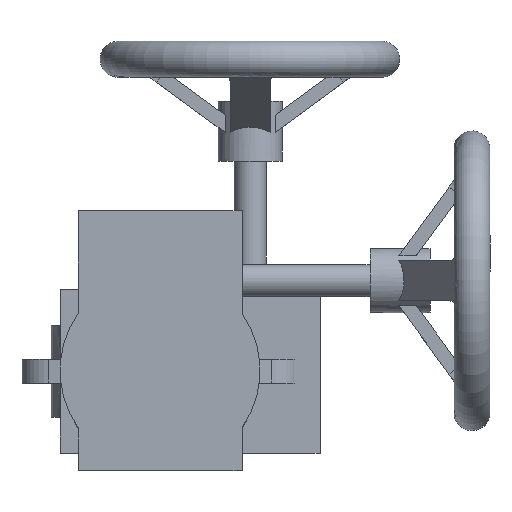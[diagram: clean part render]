
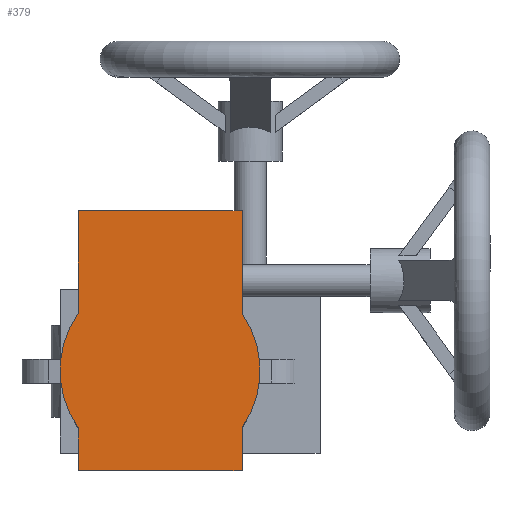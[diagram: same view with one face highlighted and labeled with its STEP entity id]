
A CAD part, top view. The second image highlights one B-rep face of the part: STEP entity #379.
In plain terms, the highlighted planar face has unit normal (0, 0, 1) as drawn and (0, 0, -1) by its records, which use the part's own axes.
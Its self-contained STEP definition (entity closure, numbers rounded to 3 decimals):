
#379 = ADVANCED_FACE( '', ( #950 ), #951, .F. );
#950 = FACE_OUTER_BOUND( '', #2036, .T. );
#951 = PLANE( '', #2037 );
#2036 = EDGE_LOOP( '', ( #4185, #4186, #4187, #4188, #4189, #4190, #4191, #4192 ) );
#2037 = AXIS2_PLACEMENT_3D( '', #4193, #4194, #4195 );
#4185 = ORIENTED_EDGE( '', *, *, #6374, .F. );
#4186 = ORIENTED_EDGE( '', *, *, #6554, .F. );
#4187 = ORIENTED_EDGE( '', *, *, #6526, .F. );
#4188 = ORIENTED_EDGE( '', *, *, #6555, .F. );
#4189 = ORIENTED_EDGE( '', *, *, #6321, .F. );
#4190 = ORIENTED_EDGE( '', *, *, #6556, .F. );
#4191 = ORIENTED_EDGE( '', *, *, #6557, .F. );
#4192 = ORIENTED_EDGE( '', *, *, #6558, .F. );
#4193 = CARTESIAN_POINT( '', ( 0., 0., 0. ) );
#4194 = DIRECTION( '', ( 0., 0., 1. ) );
#4195 = DIRECTION( '', ( 1., 0., 0. ) );
#6321 = EDGE_CURVE( '', #7206, #7208, #7209, .T. );
#6374 = EDGE_CURVE( '', #7304, #7306, #7307, .T. );
#6526 = EDGE_CURVE( '', #7570, #7572, #7573, .T. );
#6554 = EDGE_CURVE( '', #7572, #7304, #7618, .T. );
#6555 = EDGE_CURVE( '', #7208, #7570, #7619, .T. );
#6556 = EDGE_CURVE( '', #7620, #7206, #7621, .T. );
#6557 = EDGE_CURVE( '', #7622, #7620, #7623, .T. );
#6558 = EDGE_CURVE( '', #7306, #7622, #7624, .T. );
#7206 = VERTEX_POINT( '', #8728 );
#7208 = VERTEX_POINT( '', #8731 );
#7209 = CIRCLE( '', #8732, 50. );
#7304 = VERTEX_POINT( '', #9032 );
#7306 = VERTEX_POINT( '', #9035 );
#7307 = CIRCLE( '', #9036, 50. );
#7570 = VERTEX_POINT( '', #10354 );
#7572 = VERTEX_POINT( '', #10357 );
#7573 = LINE( '', #10358, #10359 );
#7618 = LINE( '', #10607, #10608 );
#7619 = LINE( '', #10609, #10610 );
#7620 = VERTEX_POINT( '', #10611 );
#7621 = LINE( '', #10612, #10613 );
#7622 = VERTEX_POINT( '', #10614 );
#7623 = LINE( '', #10615, #10616 );
#7624 = LINE( '', #10617, #10618 );
#8728 = CARTESIAN_POINT( '', ( 28.618, 41., 0. ) );
#8731 = CARTESIAN_POINT( '', ( -28.618, 41., 0. ) );
#8732 = AXIS2_PLACEMENT_3D( '', #14961, #14962, #14963 );
#9032 = CARTESIAN_POINT( '', ( -28.618, -41., 0. ) );
#9035 = CARTESIAN_POINT( '', ( 28.618, -41., 0. ) );
#9036 = AXIS2_PLACEMENT_3D( '', #15027, #15028, #15029 );
#10354 = CARTESIAN_POINT( '', ( -50., 41., 0. ) );
#10357 = CARTESIAN_POINT( '', ( -50., -41., 0. ) );
#10358 = CARTESIAN_POINT( '', ( -50., 41., 0. ) );
#10359 = VECTOR( '', #15167, 1000. );
#10607 = CARTESIAN_POINT( '', ( -50., -41., 0. ) );
#10608 = VECTOR( '', #15184, 1000. );
#10609 = CARTESIAN_POINT( '', ( -28.618, 41., 0. ) );
#10610 = VECTOR( '', #15185, 1000. );
#10611 = CARTESIAN_POINT( '', ( 80., 41., 0. ) );
#10612 = CARTESIAN_POINT( '', ( 80., 41., 0. ) );
#10613 = VECTOR( '', #15186, 1000. );
#10614 = CARTESIAN_POINT( '', ( 80., -41., 0. ) );
#10615 = CARTESIAN_POINT( '', ( 80., -41., 0. ) );
#10616 = VECTOR( '', #15187, 1000. );
#10617 = CARTESIAN_POINT( '', ( 28.618, -41., 0. ) );
#10618 = VECTOR( '', #15188, 1000. );
#14961 = CARTESIAN_POINT( '', ( 0., 0., 0. ) );
#14962 = DIRECTION( '', ( 0., 0., 1. ) );
#14963 = DIRECTION( '', ( 1., 0., 0. ) );
#15027 = CARTESIAN_POINT( '', ( 0., 0., 0. ) );
#15028 = DIRECTION( '', ( 0., 0., 1. ) );
#15029 = DIRECTION( '', ( 1., 0., 0. ) );
#15167 = DIRECTION( '', ( 0., -1., 0. ) );
#15184 = DIRECTION( '', ( 1., 0., 0. ) );
#15185 = DIRECTION( '', ( -1., 0., 0. ) );
#15186 = DIRECTION( '', ( -1., 0., 0. ) );
#15187 = DIRECTION( '', ( 0., 1., 0. ) );
#15188 = DIRECTION( '', ( 1., 0., 0. ) );
